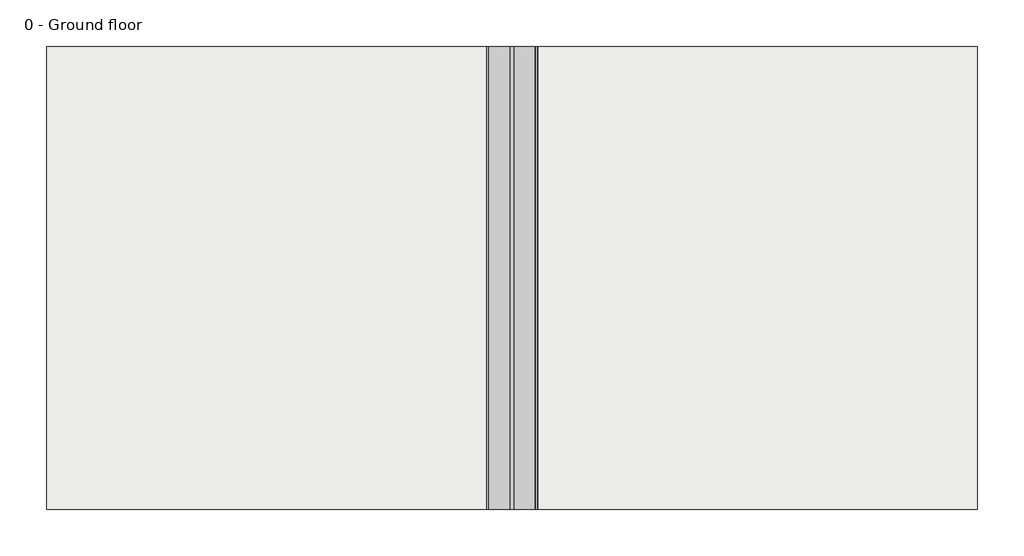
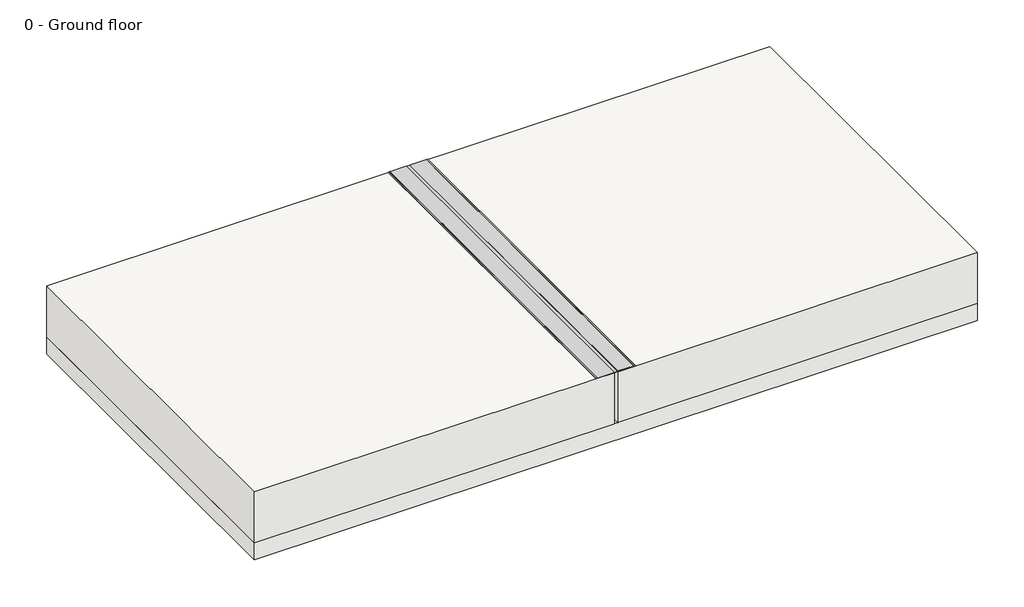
# One storey: 3 slabs, 1 proxy.
"""IFC4 building model written with IfcOpenShell, lengths in millimetres."""

from ifc_helpers import new_model, si_unit, frame, origin, place, context, project, spatial, polyline, outline, extrude, faceted_brep, element, save

model = new_model("IFC4")

# Units and contexts
model_context = context("Model", 3, world=origin())
ifc_project = project(units=[si_unit("LENGTHUNIT", "METRE", prefix="MILLI")], contexts=[model_context])

# Site, building, storey
site = spatial("IfcSite", under=ifc_project)
building = spatial("IfcBuilding", under=site)
storey = spatial("IfcBuildingStorey", under=building, Name="0 - Ground floor", Elevation=0.0)

# Proxy
placement = place(None, origin())
element("IfcBuildingElementProxy", 1, Name="BI FLEX SYSTEM H.20 VOLTECO", ObjectType="BI FLEX SYSTEM H.20 VOLTECO", at=placement, inside=storey, context=model_context, shape_type="SweptSolid", body=[
    extrude(outline(polyline([(0.0, -1025.4077784), (0.0, -924.4077784), (1.0, -924.4077784), (1.0, -904.4077784), (0.0, -904.4077784), (0.0, -803.4077784), (2.5, -805.9077784), (2.5, -812.9077784), (3.5, -814.4077784), (3.5, -904.4077784), (2.0, -904.4077784), (2.0, -924.4077784), (3.5, -924.4077784), (3.5, -1014.4077784), (2.5, -1015.9077784), (2.5, -1022.9077784), (0.0, -1025.4077784)])), frame((0.0, -5600.0273433, 0.0), z_axis=(0.0, 1.0, 0.0), x_axis=(0.0, 0.0, 1.0)), (0.0, 0.0, 1.0), 2000.0),
])

# Slabs
element("IfcSlab", 2, ObjectType="Blinding concrete - 10 cm", at=placement, inside=storey, context=model_context, shape_type="SweptSolid", body=[
    extrude(outline(polyline([(1095.5922216, -3600.0273433), (1095.5922216, -5600.0273433), (-2924.4077784, -5600.0273433), (-2924.4077784, -3600.0273433), (1095.5922216, -3600.0273433)])), frame((0.0, 0.0, -400.0), z_axis=(0.0, 0.0, 1.0), x_axis=(1.0, 0.0, 0.0)), (0.0, 0.0, 1.0), 100.0),
])
element("IfcSlab", 3, ObjectType="Raft foundation - 30 cm", at=placement, inside=storey, context=model_context, shape_type="Brep", body=[
    faceted_brep([(-924.4077784, -3600.0273433, -300.0), (-924.4077784, -5600.0273433, -300.0), (-2924.4077784, -5600.0273433, -300.0), (-2924.4077784, -3600.0273433, -300.0), (-924.4077784, -3600.0273433, 0.0), (-1025.4077784, -3600.0273433, 0.0), (-2924.4077784, -3600.0273433, 0.0), (-2924.4077784, -5600.0273433, 0.0), (-1025.4077784, -5600.0273433, 0.0), (-924.4077784, -5600.0273433, 0.0)], [[[0, 1, 2, 3]], [[4, 5, 6, 7, 8, 9]], [[1, 0, 4, 9]], [[2, 1, 9, 8, 7]], [[3, 2, 7, 6]], [[0, 3, 6, 5, 4]]]),
])
element("IfcSlab", 4, ObjectType="Raft foundation - 30 cm", at=placement, inside=storey, context=model_context, shape_type="SweptSolid", body=[
    extrude(outline(polyline([(1095.5922216, -3600.0273433), (1095.5922216, -5600.0273433), (-904.4077784, -5600.0273433), (-904.4077784, -3600.0273433), (1095.5922216, -3600.0273433)])), frame((0.0, 0.0, -300.0), z_axis=(0.0, 0.0, 1.0), x_axis=(1.0, 0.0, 0.0)), (0.0, 0.0, 1.0), 300.0),
])

save(model, "model.ifc")
